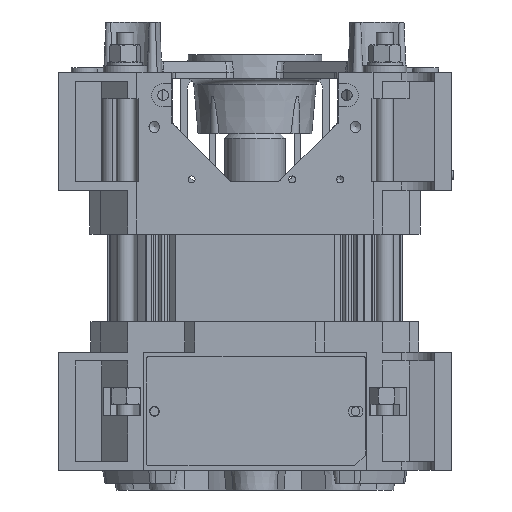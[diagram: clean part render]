
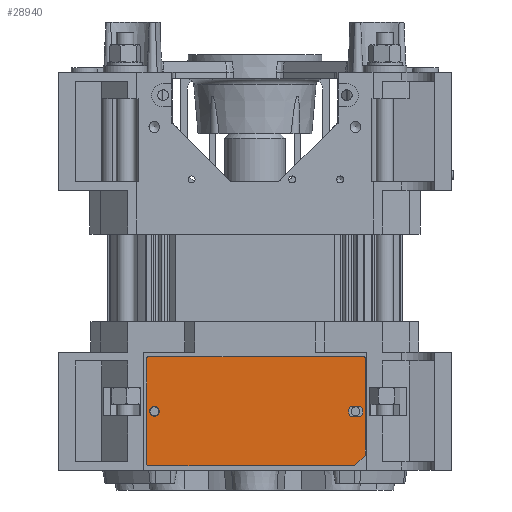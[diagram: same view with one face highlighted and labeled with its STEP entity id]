
A CAD part, left-side view. The second image highlights one B-rep face of the part: STEP entity #28940.
In plain terms, the highlighted planar face has unit normal (-1, 0, 0) as drawn and (0, 0, -1) by its records, which use the part's own axes.
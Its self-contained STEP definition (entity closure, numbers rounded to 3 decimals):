
#3433=LINE('',#50577,#6073);
#3437=LINE('',#50587,#6077);
#3442=LINE('',#50605,#6082);
#3446=LINE('',#50617,#6086);
#3450=LINE('',#50629,#6090);
#3453=LINE('',#50635,#6093);
#3455=LINE('',#50638,#6095);
#6073=VECTOR('',#40184,1.);
#6077=VECTOR('',#40196,1.);
#6082=VECTOR('',#40215,1.);
#6086=VECTOR('',#40227,1.);
#6090=VECTOR('',#40239,1.);
#6093=VECTOR('',#40244,1.);
#6095=VECTOR('',#40248,1.);
#6994=PLANE('',#31893);
#7208=FACE_BOUND('',#10387,.T.);
#7209=FACE_BOUND('',#10388,.T.);
#8687=FACE_OUTER_BOUND('',#10386,.T.);
#10386=EDGE_LOOP('',(#27082,#27083,#27084,#27085,#27086,#27087,#27088,#27089));
#10387=EDGE_LOOP('',(#27090,#27091,#27092,#27093));
#10388=EDGE_LOOP('',(#27094,#27095));
#11610=CIRCLE('',#31866,2.25);
#11612=CIRCLE('',#31869,3.25);
#11614=CIRCLE('',#31873,3.25);
#11615=CIRCLE('',#31876,2.25);
#11618=CIRCLE('',#31880,1.);
#11620=CIRCLE('',#31884,1.);
#11622=CIRCLE('',#31888,1.);
#14425=VERTEX_POINT('',#50557);
#14427=VERTEX_POINT('',#50561);
#14430=VERTEX_POINT('',#50568);
#14431=VERTEX_POINT('',#50570);
#14433=VERTEX_POINT('',#50576);
#14435=VERTEX_POINT('',#50582);
#14438=VERTEX_POINT('',#50595);
#14439=VERTEX_POINT('',#50597);
#14441=VERTEX_POINT('',#50603);
#14443=VERTEX_POINT('',#50609);
#14445=VERTEX_POINT('',#50615);
#14447=VERTEX_POINT('',#50621);
#14449=VERTEX_POINT('',#50627);
#14451=VERTEX_POINT('',#50633);
#18633=EDGE_CURVE('',#14425,#14427,#11610,.T.);
#18636=EDGE_CURVE('',#14431,#14430,#11612,.T.);
#18639=EDGE_CURVE('',#14433,#14431,#3433,.T.);
#18642=EDGE_CURVE('',#14435,#14433,#11614,.T.);
#18645=EDGE_CURVE('',#14430,#14435,#3437,.T.);
#18646=EDGE_CURVE('',#14427,#14425,#11615,.T.);
#18650=EDGE_CURVE('',#14439,#14438,#11618,.T.);
#18654=EDGE_CURVE('',#14438,#14441,#3442,.T.);
#18657=EDGE_CURVE('',#14441,#14443,#11620,.T.);
#18660=EDGE_CURVE('',#14443,#14445,#3446,.T.);
#18663=EDGE_CURVE('',#14445,#14447,#11622,.T.);
#18666=EDGE_CURVE('',#14447,#14449,#3450,.T.);
#18669=EDGE_CURVE('',#14449,#14451,#3453,.T.);
#18671=EDGE_CURVE('',#14451,#14439,#3455,.T.);
#27082=ORIENTED_EDGE('',*,*,#18671,.T.);
#27083=ORIENTED_EDGE('',*,*,#18650,.T.);
#27084=ORIENTED_EDGE('',*,*,#18654,.T.);
#27085=ORIENTED_EDGE('',*,*,#18657,.T.);
#27086=ORIENTED_EDGE('',*,*,#18660,.T.);
#27087=ORIENTED_EDGE('',*,*,#18663,.T.);
#27088=ORIENTED_EDGE('',*,*,#18666,.T.);
#27089=ORIENTED_EDGE('',*,*,#18669,.T.);
#27090=ORIENTED_EDGE('',*,*,#18636,.T.);
#27091=ORIENTED_EDGE('',*,*,#18645,.T.);
#27092=ORIENTED_EDGE('',*,*,#18642,.T.);
#27093=ORIENTED_EDGE('',*,*,#18639,.T.);
#27094=ORIENTED_EDGE('',*,*,#18646,.T.);
#27095=ORIENTED_EDGE('',*,*,#18633,.T.);
#28940=ADVANCED_FACE('',(#8687,#7208,#7209),#6994,.F.);
#31866=AXIS2_PLACEMENT_3D('',#50563,#40171,#40172);
#31869=AXIS2_PLACEMENT_3D('',#50571,#40178,#40179);
#31873=AXIS2_PLACEMENT_3D('',#50583,#40190,#40191);
#31876=AXIS2_PLACEMENT_3D('',#50589,#40199,#40200);
#31880=AXIS2_PLACEMENT_3D('',#50598,#40208,#40209);
#31884=AXIS2_PLACEMENT_3D('',#50611,#40221,#40222);
#31888=AXIS2_PLACEMENT_3D('',#50623,#40233,#40234);
#31893=AXIS2_PLACEMENT_3D('',#50640,#40251,#40252);
#40171=DIRECTION('center_axis',(0.,0.,1.));
#40172=DIRECTION('ref_axis',(-1.,0.,0.));
#40178=DIRECTION('center_axis',(0.,0.,1.));
#40179=DIRECTION('ref_axis',(-0.722,0.692,0.));
#40184=DIRECTION('',(1.,0.,0.));
#40190=DIRECTION('center_axis',(0.,0.,1.));
#40191=DIRECTION('ref_axis',(0.722,-0.692,0.));
#40196=DIRECTION('',(-1.,0.,0.));
#40199=DIRECTION('center_axis',(0.,0.,1.));
#40200=DIRECTION('ref_axis',(-1.,0.,0.));
#40208=DIRECTION('center_axis',(0.,0.,-1.));
#40209=DIRECTION('ref_axis',(0.,1.,0.));
#40215=DIRECTION('',(-1.,0.,0.));
#40221=DIRECTION('center_axis',(0.,0.,-1.));
#40222=DIRECTION('ref_axis',(1.,0.,0.));
#40227=DIRECTION('',(0.,1.,0.));
#40233=DIRECTION('center_axis',(0.,0.,-1.));
#40234=DIRECTION('ref_axis',(0.,-1.,0.));
#40239=DIRECTION('',(1.,0.,0.));
#40244=DIRECTION('',(0.707,-0.707,0.));
#40248=DIRECTION('',(0.,-1.,0.));
#40251=DIRECTION('center_axis',(0.,0.,1.));
#40252=DIRECTION('ref_axis',(1.,0.,0.));
#50557=CARTESIAN_POINT('',(15836.624,-1887.647,0.));
#50561=CARTESIAN_POINT('',(15841.124,-1887.647,0.));
#50563=CARTESIAN_POINT('Origin',(15838.874,-1887.647,0.));
#50568=CARTESIAN_POINT('',(15933.219,-1885.397,0.));
#50570=CARTESIAN_POINT('',(15933.219,-1889.897,0.));
#50571=CARTESIAN_POINT('Origin',(15930.874,-1887.647,0.));
#50576=CARTESIAN_POINT('',(15928.529,-1889.897,0.));
#50577=CARTESIAN_POINT('',(15928.529,-1889.897,0.));
#50582=CARTESIAN_POINT('',(15928.529,-1885.397,0.));
#50583=CARTESIAN_POINT('Origin',(15930.874,-1887.647,0.));
#50587=CARTESIAN_POINT('',(15933.219,-1885.397,0.));
#50589=CARTESIAN_POINT('Origin',(15838.874,-1887.647,0.));
#50595=CARTESIAN_POINT('',(15934.374,-1912.647,0.));
#50597=CARTESIAN_POINT('',(15935.374,-1911.647,0.));
#50598=CARTESIAN_POINT('Origin',(15934.374,-1911.647,0.));
#50603=CARTESIAN_POINT('',(15836.374,-1912.647,0.));
#50605=CARTESIAN_POINT('',(15934.374,-1912.647,0.));
#50609=CARTESIAN_POINT('',(15835.374,-1911.647,0.));
#50611=CARTESIAN_POINT('Origin',(15836.374,-1911.647,0.));
#50615=CARTESIAN_POINT('',(15835.374,-1863.647,0.));
#50617=CARTESIAN_POINT('',(15835.374,-1911.647,0.));
#50621=CARTESIAN_POINT('',(15836.374,-1862.647,0.));
#50623=CARTESIAN_POINT('Origin',(15836.374,-1863.647,0.));
#50627=CARTESIAN_POINT('',(15930.374,-1862.647,0.));
#50629=CARTESIAN_POINT('',(15836.374,-1862.647,0.));
#50633=CARTESIAN_POINT('',(15935.374,-1867.647,0.));
#50635=CARTESIAN_POINT('',(15930.374,-1862.647,0.));
#50638=CARTESIAN_POINT('',(15935.374,-1867.647,0.));
#50640=CARTESIAN_POINT('Origin',(15830.374,-1915.147,0.));
